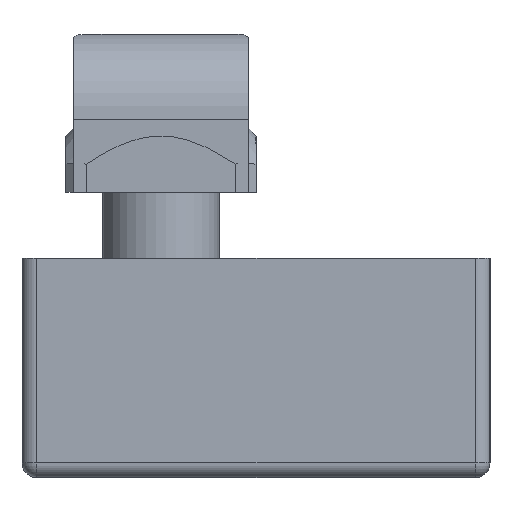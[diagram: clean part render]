
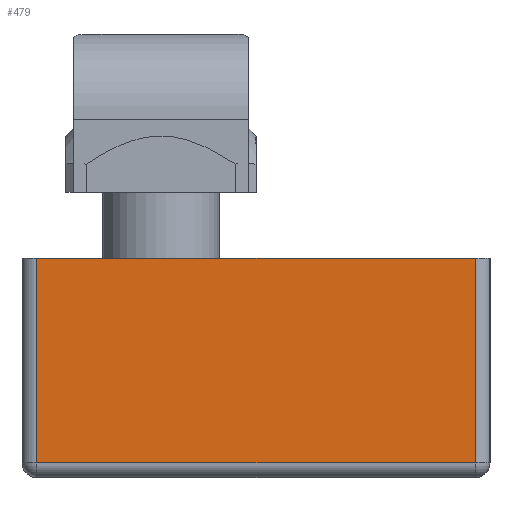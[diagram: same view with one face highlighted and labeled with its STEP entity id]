
A CAD part, left-side view. The second image highlights one B-rep face of the part: STEP entity #479.
In plain terms, the highlighted planar face has unit normal (-1, 0, 0) as drawn and (1, 0, 0) by its records, which use the part's own axes.
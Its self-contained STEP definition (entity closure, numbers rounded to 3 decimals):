
#114=CARTESIAN_POINT('',(45.,-21.5,14.0));
#115=VERTEX_POINT('',#114);
#182=CARTESIAN_POINT('',(45.0,8.5,14.0));
#183=VERTEX_POINT('',#182);
#328=CARTESIAN_POINT('',(45.0,8.5,0.0));
#329=VERTEX_POINT('',#328);
#346=CARTESIAN_POINT('',(45.0,8.5,14.0));
#347=DIRECTION('',(0.0,0.0,-1.0));
#348=VECTOR('',#347,14.0);
#349=LINE('',#346,#348);
#350=EDGE_CURVE('',#183,#329,#349,.T.);
#361=CARTESIAN_POINT('',(45.,-21.5,14.0));
#362=DIRECTION('',(0.0,1.0,0.0));
#363=VECTOR('',#362,30.);
#364=LINE('',#361,#363);
#365=EDGE_CURVE('',#115,#183,#364,.T.);
#438=CARTESIAN_POINT('',(45.,-21.5,0.0));
#439=VERTEX_POINT('',#438);
#447=CARTESIAN_POINT('',(45.,-21.5,0.0));
#448=DIRECTION('',(0.0,0.0,1.0));
#449=VECTOR('',#448,14.0);
#450=LINE('',#447,#449);
#451=EDGE_CURVE('',#439,#115,#450,.T.);
#463=CARTESIAN_POINT('',(45.0,9.5,0.0));
#464=DIRECTION('',(1.0,0.0,0.0));
#465=DIRECTION('',(0.0,0.0,-1.0));
#466=AXIS2_PLACEMENT_3D('',#463,#464,#465);
#467=PLANE('',#466);
#468=ORIENTED_EDGE('',*,*,#350,.F.);
#469=ORIENTED_EDGE('',*,*,#365,.F.);
#470=ORIENTED_EDGE('',*,*,#451,.F.);
#471=CARTESIAN_POINT('',(45.,-21.5,0.0));
#472=DIRECTION('',(0.0,1.0,0.0));
#473=VECTOR('',#472,30.);
#474=LINE('',#471,#473);
#475=EDGE_CURVE('',#439,#329,#474,.T.);
#476=ORIENTED_EDGE('',*,*,#475,.T.);
#477=EDGE_LOOP('',(#468,#469,#470,#476));
#478=FACE_OUTER_BOUND('',#477,.T.);
#479=ADVANCED_FACE('',(#478),#467,.T.);
